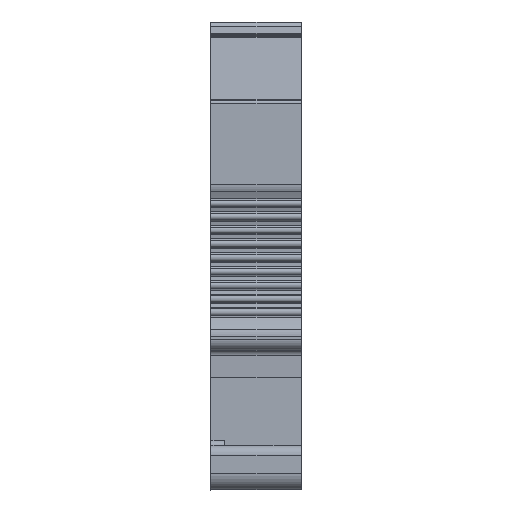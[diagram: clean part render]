
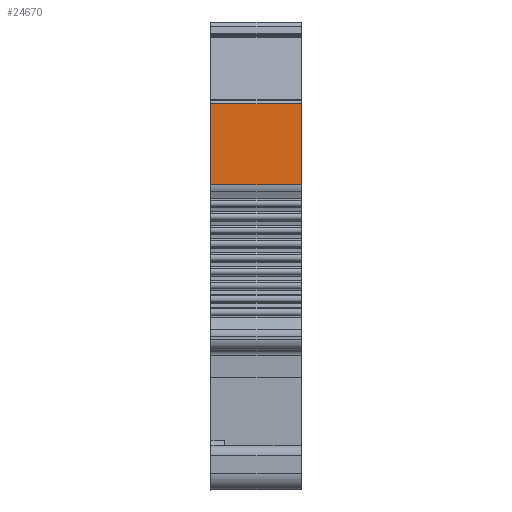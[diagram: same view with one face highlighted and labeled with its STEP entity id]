
A CAD part, front view. The second image highlights one B-rep face of the part: STEP entity #24670.
In plain terms, the highlighted planar face has unit normal (0, -1, 0).
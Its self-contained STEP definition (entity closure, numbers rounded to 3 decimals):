
#998=DIRECTION('',(0.,0.,-1.));
#999=VECTOR('',#998,7.312);
#1000=CARTESIAN_POINT('',(-12.95,-31.49,
34.846));
#1001=LINE('',#1000,#999);
#1637=DIRECTION('',(0.,0.,1.));
#1638=VECTOR('',#1637,7.312);
#1639=CARTESIAN_POINT('',(-21.1,-31.49,
27.533));
#1640=LINE('',#1639,#1638);
#7552=DIRECTION('',(1.,0.,0.));
#7553=VECTOR('',#7552,8.15);
#7554=CARTESIAN_POINT('',(-21.1,-31.49,
34.846));
#7555=LINE('',#7554,#7553);
#7560=DIRECTION('',(-1.,0.,0.));
#7561=VECTOR('',#7560,8.15);
#7562=CARTESIAN_POINT('',(-12.95,-31.49,
27.533));
#7563=LINE('',#7562,#7561);
#13293=CARTESIAN_POINT('',(-21.1,-31.49,
27.533));
#13294=VERTEX_POINT('',#13293);
#13295=CARTESIAN_POINT('',(-21.1,-31.49,
34.846));
#13296=VERTEX_POINT('',#13295);
#13887=CARTESIAN_POINT('',(-12.95,-31.49,
27.533));
#13888=VERTEX_POINT('',#13887);
#13889=CARTESIAN_POINT('',(-12.95,-31.49,
34.846));
#13890=VERTEX_POINT('',#13889);
#24658=CARTESIAN_POINT('',(-12.742,-31.49,
35.033));
#24659=DIRECTION('',(0.,1.,0.));
#24660=DIRECTION('',(0.,0.,-1.));
#24661=AXIS2_PLACEMENT_3D('',#24658,#24659,#24660);
#24662=PLANE('',#24661);
#24663=ORIENTED_EDGE('',*,*,#24652,.T.);
#24664=ORIENTED_EDGE('',*,*,#16787,.T.);
#24666=ORIENTED_EDGE('',*,*,#24665,.T.);
#24667=ORIENTED_EDGE('',*,*,#17155,.T.);
#24668=EDGE_LOOP('',(#24663,#24664,#24666,#24667));
#24669=FACE_OUTER_BOUND('',#24668,.F.);
#24670=ADVANCED_FACE('',(#24669),#24662,.F.);
#16787=EDGE_CURVE('',#13890,#13888,#1001,.T.);
#17155=EDGE_CURVE('',#13294,#13296,#1640,.T.);
#24652=EDGE_CURVE('',#13296,#13890,#7555,.T.);
#24665=EDGE_CURVE('',#13888,#13294,#7563,.T.);
